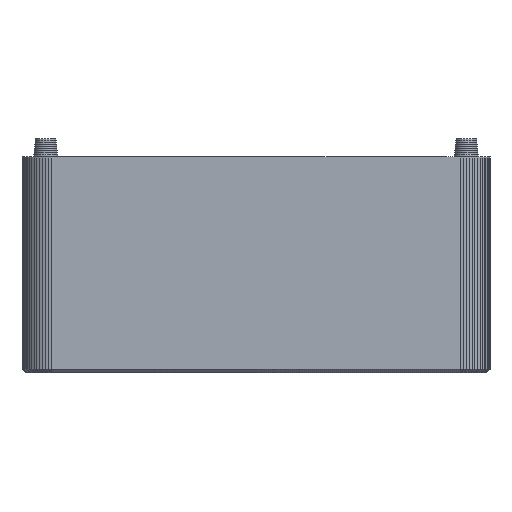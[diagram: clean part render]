
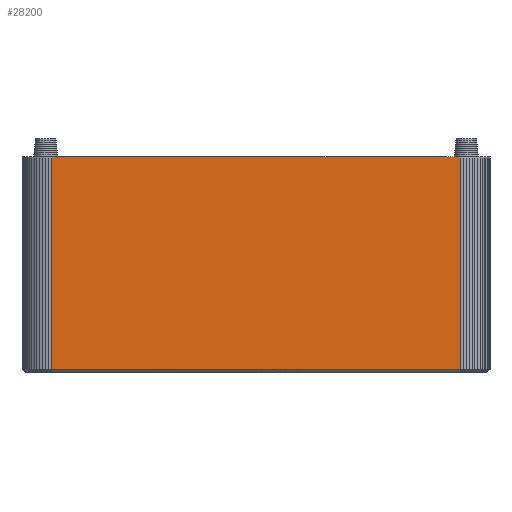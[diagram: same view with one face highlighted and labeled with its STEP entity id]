
A CAD part, left-side view. The second image highlights one B-rep face of the part: STEP entity #28200.
In plain terms, the highlighted planar face has unit normal (-1, 0, 0).
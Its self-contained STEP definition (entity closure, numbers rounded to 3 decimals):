
#535 = VERTEX_POINT('',#536);
#536 = CARTESIAN_POINT('',(0.,146.,1.2));
#545 = PLANE('',#546);
#546 = AXIS2_PLACEMENT_3D('',#547,#548,#549);
#547 = CARTESIAN_POINT('',(0.898,78.422,0.302
    ));
#548 = DIRECTION('',(-0.707,-0.,-0.707));
#549 = DIRECTION('',(-0.707,0.,0.707));
#591 = VERTEX_POINT('',#592);
#592 = CARTESIAN_POINT('',(0.,10.,1.2));
#613 = EDGE_CURVE('',#535,#591,#614,.T.);
#614 = SURFACE_CURVE('',#615,(#619,#626),.PCURVE_S1.);
#615 = LINE('',#616,#617);
#616 = CARTESIAN_POINT('',(0.,146.,1.2));
#617 = VECTOR('',#618,1.);
#618 = DIRECTION('',(0.,-1.,0.));
#619 = PCURVE('',#545,#620);
#620 = DEFINITIONAL_REPRESENTATION('',(#621),#625);
#621 = LINE('',#622,#623);
#622 = CARTESIAN_POINT('',(1.27,67.578));
#623 = VECTOR('',#624,1.);
#624 = DIRECTION('',(0.,-1.));
#625 = ( GEOMETRIC_REPRESENTATION_CONTEXT(2) 
PARAMETRIC_REPRESENTATION_CONTEXT() REPRESENTATION_CONTEXT('2D SPACE',''
  ) );
#626 = PCURVE('',#627,#632);
#627 = PLANE('',#628);
#628 = AXIS2_PLACEMENT_3D('',#629,#630,#631);
#629 = CARTESIAN_POINT('',(0.,91.369,23.231));
#630 = DIRECTION('',(-1.,-0.,-0.));
#631 = DIRECTION('',(0.,0.,-1.));
#632 = DEFINITIONAL_REPRESENTATION('',(#633),#637);
#633 = LINE('',#634,#635);
#634 = CARTESIAN_POINT('',(22.031,-54.631));
#635 = VECTOR('',#636,1.);
#636 = DIRECTION('',(0.,1.));
#637 = ( GEOMETRIC_REPRESENTATION_CONTEXT(2) 
PARAMETRIC_REPRESENTATION_CONTEXT() REPRESENTATION_CONTEXT('2D SPACE',''
  ) );
#656 = PLANE('',#657);
#657 = AXIS2_PLACEMENT_3D('',#658,#659,#660);
#658 = CARTESIAN_POINT('',(0.014,9.737,
    36.34));
#659 = DIRECTION('',(-0.999,-0.052,-0.));
#660 = DIRECTION('',(0.052,-0.999,0.));
#7214 = PLANE('',#7215);
#7215 = AXIS2_PLACEMENT_3D('',#7216,#7217,#7218);
#7216 = CARTESIAN_POINT('',(0.041,146.782,
    36.34));
#7217 = DIRECTION('',(-0.999,0.052,-0.));
#7218 = DIRECTION('',(-0.052,-0.999,0.));
#11002 = PLANE('',#11003);
#11003 = AXIS2_PLACEMENT_3D('',#11004,#11005,#11006);
#11004 = CARTESIAN_POINT('',(154.992,146.314,72.));
#11005 = DIRECTION('',(0.,0.,1.));
#11006 = DIRECTION('',(1.,0.,-0.));
#16375 = VERTEX_POINT('',#16376);
#16376 = CARTESIAN_POINT('',(0.,146.,72.));
#16397 = EDGE_CURVE('',#16375,#16398,#16400,.T.);
#16398 = VERTEX_POINT('',#16399);
#16399 = CARTESIAN_POINT('',(0.,10.,72.));
#16400 = SURFACE_CURVE('',#16401,(#16405,#16412),.PCURVE_S1.);
#16401 = LINE('',#16402,#16403);
#16402 = CARTESIAN_POINT('',(0.,146.,72.));
#16403 = VECTOR('',#16404,1.);
#16404 = DIRECTION('',(0.,-1.,0.));
#16405 = PCURVE('',#11002,#16406);
#16406 = DEFINITIONAL_REPRESENTATION('',(#16407),#16411);
#16407 = LINE('',#16408,#16409);
#16408 = CARTESIAN_POINT('',(-154.992,-0.314));
#16409 = VECTOR('',#16410,1.);
#16410 = DIRECTION('',(0.,-1.));
#16411 = ( GEOMETRIC_REPRESENTATION_CONTEXT(2) 
PARAMETRIC_REPRESENTATION_CONTEXT() REPRESENTATION_CONTEXT('2D SPACE',''
  ) );
#16412 = PCURVE('',#627,#16413);
#16413 = DEFINITIONAL_REPRESENTATION('',(#16414),#16418);
#16414 = LINE('',#16415,#16416);
#16415 = CARTESIAN_POINT('',(-48.769,-54.631));
#16416 = VECTOR('',#16417,1.);
#16417 = DIRECTION('',(0.,1.));
#16418 = ( GEOMETRIC_REPRESENTATION_CONTEXT(2) 
PARAMETRIC_REPRESENTATION_CONTEXT() REPRESENTATION_CONTEXT('2D SPACE',''
  ) );
#28200 = ADVANCED_FACE('',(#28201),#627,.T.);
#28201 = FACE_BOUND('',#28202,.T.);
#28202 = EDGE_LOOP('',(#28203,#28224,#28225,#28246));
#28203 = ORIENTED_EDGE('',*,*,#28204,.F.);
#28204 = EDGE_CURVE('',#535,#16375,#28205,.T.);
#28205 = SURFACE_CURVE('',#28206,(#28210,#28217),.PCURVE_S1.);
#28206 = LINE('',#28207,#28208);
#28207 = CARTESIAN_POINT('',(0.,146.,1.2));
#28208 = VECTOR('',#28209,1.);
#28209 = DIRECTION('',(0.,0.,1.));
#28210 = PCURVE('',#627,#28211);
#28211 = DEFINITIONAL_REPRESENTATION('',(#28212),#28216);
#28212 = LINE('',#28213,#28214);
#28213 = CARTESIAN_POINT('',(22.031,-54.631));
#28214 = VECTOR('',#28215,1.);
#28215 = DIRECTION('',(-1.,0.));
#28216 = ( GEOMETRIC_REPRESENTATION_CONTEXT(2) 
PARAMETRIC_REPRESENTATION_CONTEXT() REPRESENTATION_CONTEXT('2D SPACE',''
  ) );
#28217 = PCURVE('',#7214,#28218);
#28218 = DEFINITIONAL_REPRESENTATION('',(#28219),#28223);
#28219 = LINE('',#28220,#28221);
#28220 = CARTESIAN_POINT('',(0.783,-35.14));
#28221 = VECTOR('',#28222,1.);
#28222 = DIRECTION('',(0.,1.));
#28223 = ( GEOMETRIC_REPRESENTATION_CONTEXT(2) 
PARAMETRIC_REPRESENTATION_CONTEXT() REPRESENTATION_CONTEXT('2D SPACE',''
  ) );
#28224 = ORIENTED_EDGE('',*,*,#613,.T.);
#28225 = ORIENTED_EDGE('',*,*,#28226,.T.);
#28226 = EDGE_CURVE('',#591,#16398,#28227,.T.);
#28227 = SURFACE_CURVE('',#28228,(#28232,#28239),.PCURVE_S1.);
#28228 = LINE('',#28229,#28230);
#28229 = CARTESIAN_POINT('',(0.,10.,1.2));
#28230 = VECTOR('',#28231,1.);
#28231 = DIRECTION('',(0.,0.,1.));
#28232 = PCURVE('',#627,#28233);
#28233 = DEFINITIONAL_REPRESENTATION('',(#28234),#28238);
#28234 = LINE('',#28235,#28236);
#28235 = CARTESIAN_POINT('',(22.031,81.369));
#28236 = VECTOR('',#28237,1.);
#28237 = DIRECTION('',(-1.,0.));
#28238 = ( GEOMETRIC_REPRESENTATION_CONTEXT(2) 
PARAMETRIC_REPRESENTATION_CONTEXT() REPRESENTATION_CONTEXT('2D SPACE',''
  ) );
#28239 = PCURVE('',#656,#28240);
#28240 = DEFINITIONAL_REPRESENTATION('',(#28241),#28245);
#28241 = LINE('',#28242,#28243);
#28242 = CARTESIAN_POINT('',(-0.264,-35.14));
#28243 = VECTOR('',#28244,1.);
#28244 = DIRECTION('',(0.,1.));
#28245 = ( GEOMETRIC_REPRESENTATION_CONTEXT(2) 
PARAMETRIC_REPRESENTATION_CONTEXT() REPRESENTATION_CONTEXT('2D SPACE',''
  ) );
#28246 = ORIENTED_EDGE('',*,*,#16397,.F.);
